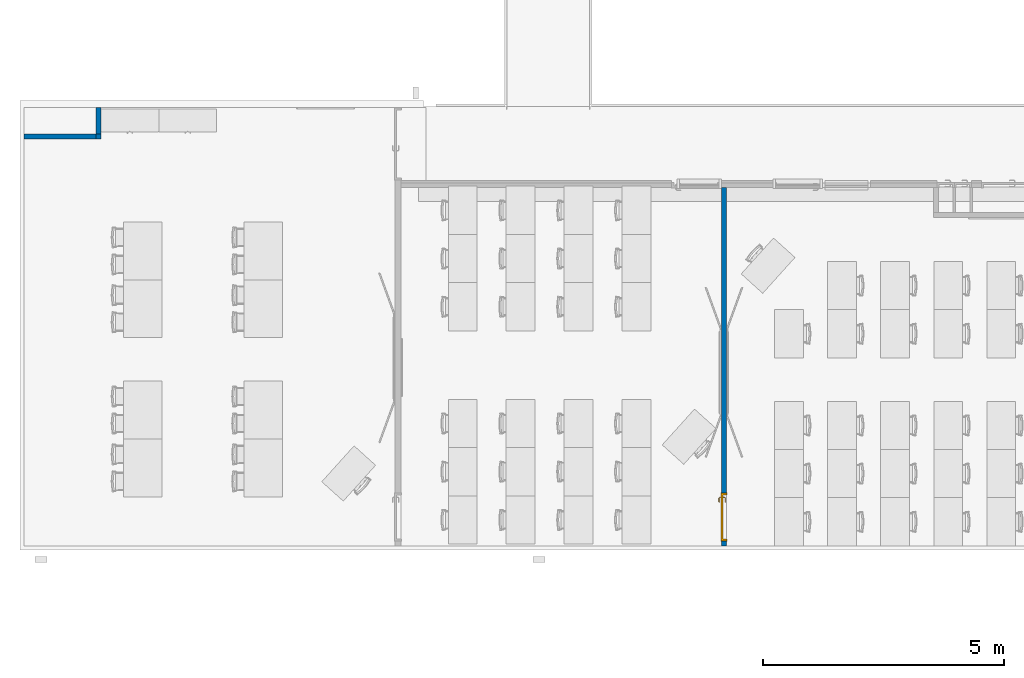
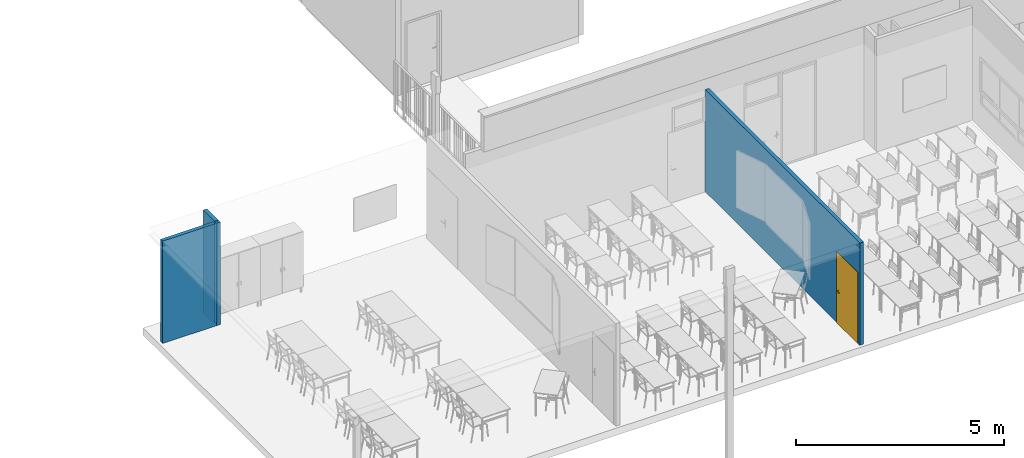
# One storey, part 18 of 44: 5 walls, 1 door, 1 opening.
"""IFC2X3 building model written with IfcOpenShell, lengths in centimetres."""

from ifc_helpers import new_model, entity, si_unit, converted_unit, derived_unit, direction, frame, frame_2d, origin, place, context, subcontext, project, spatial, rectangle, extrude, faceted_brep, source, transform, mapped, material, material_list, layer, layer_set, layer_usage, type_object, type_shapes, element, fill, save


model = new_model("IFC2X3")

# Units and contexts
model_context = context("Model", 3, precision=0.001, world=origin(), true_north=direction((6.12303176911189e-17, 1.0)))
body_context = subcontext(model_context, "Body", "Model", "MODEL_VIEW")
ifc_project = project(units=[si_unit("LENGTHUNIT", "METRE", prefix="CENTI"), si_unit("AREAUNIT", "SQUARE_METRE"), si_unit("VOLUMEUNIT", "CUBIC_METRE"), converted_unit("PLANEANGLEUNIT", "DEGREE", entity("IfcRatioMeasure", 0.0174532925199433), si_unit("PLANEANGLEUNIT", "RADIAN"), dimensions=[0, 0, 0, 0, 0, 0, 0]), si_unit("MASSUNIT", "GRAM", prefix="KILO"), si_unit("TIMEUNIT", "SECOND"), si_unit("FREQUENCYUNIT", "HERTZ"), si_unit("THERMODYNAMICTEMPERATUREUNIT", "DEGREE_CELSIUS"), derived_unit("THERMALTRANSMITTANCEUNIT", [(si_unit("MASSUNIT", "GRAM", prefix="KILO"), 1), (si_unit("THERMODYNAMICTEMPERATUREUNIT", "KELVIN"), -1), (si_unit("TIMEUNIT", "SECOND"), -3)]), derived_unit("VOLUMETRICFLOWRATEUNIT", [(si_unit("LENGTHUNIT", "METRE"), 3), (si_unit("TIMEUNIT", "SECOND"), -1)]), si_unit("ELECTRICCURRENTUNIT", "AMPERE"), si_unit("ELECTRICVOLTAGEUNIT", "VOLT"), si_unit("POWERUNIT", "WATT"), si_unit("FORCEUNIT", "NEWTON", prefix="KILO"), si_unit("ILLUMINANCEUNIT", "LUX"), si_unit("LUMINOUSFLUXUNIT", "LUMEN"), si_unit("LUMINOUSINTENSITYUNIT", "CANDELA"), derived_unit("USERDEFINED", [(si_unit("MASSUNIT", "GRAM", prefix="KILO"), -1), (si_unit("LENGTHUNIT", "METRE"), -2), (si_unit("TIMEUNIT", "SECOND"), 3), (si_unit("LUMINOUSFLUXUNIT", "LUMEN"), 1)]), derived_unit("LINEARVELOCITYUNIT", [(si_unit("LENGTHUNIT", "METRE"), 1), (si_unit("TIMEUNIT", "SECOND"), -1)]), si_unit("PRESSUREUNIT", "PASCAL"), derived_unit("USERDEFINED", [(si_unit("LENGTHUNIT", "METRE"), -2), (si_unit("MASSUNIT", "GRAM", prefix="KILO"), 1), (si_unit("TIMEUNIT", "SECOND"), -2)])], contexts=[model_context])

# Site, building, storey
site_placement = place(None, frame((8.62739174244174, -249.285249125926, 0.0)))
site = spatial("IfcSite", under=ifc_project, at=site_placement, Name="Default", CompositionType="ELEMENT")
building_placement = place(site_placement, origin())
building = spatial("IfcBuilding", under=site, at=building_placement, CompositionType="ELEMENT")
storey_placement = place(building_placement, frame((0.0, 0.0, 343.0)))
storey = spatial("IfcBuildingStorey", under=building, at=storey_placement, Name="R+1", CompositionType="ELEMENT", Elevation=343.0)

# Walls
ifc_material_1 = material(Name="Plâtre")
ifc_layer = layer(ifc_material_1, 10.0)
ifc_layer_set = layer_set([ifc_layer], Name="Mur de base:PLA 10")
ifc_layer_usage_1 = layer_usage(ifc_layer_set, "AXIS2", "NEGATIVE", 5.0)
wall_type = type_object("IfcWallType", Name="Mur de base:PLA 10", PredefinedType="STANDARD", material=ifc_layer_set)
wall_1_placement = place(storey_placement, frame((22.100000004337, 871.0, 0.0)))
element("IfcWallStandardCase", 1, at=wall_1_placement, inside=storey, type_object=wall_type, material=ifc_layer_usage_1, Name="Mur de base:PLA 10", ObjectType="Mur de base:PLA 10", context=body_context, shape_type="SweptSolid", body=[
    extrude(rectangle(XDim=159.9, YDim=9.99999999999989, at=frame_2d((79.95, 0.0), x_axis=(-1.0, 0.0))), origin(), (0.0, 0.0, 1.0), 300.0),
])
ifc_layer_usage_2 = layer_usage(ifc_layer_set, "AXIS2", "NEGATIVE", 5.0)
wall_2_placement = place(storey_placement, frame((177.0, 876.0, 0.0), z_axis=(0.0, 0.0, 1.0), x_axis=(0.0, 1.0, 0.0)))
element("IfcWallStandardCase", 2, at=wall_2_placement, inside=storey, type_object=wall_type, material=ifc_layer_usage_2, Name="Mur de base:PLA 10", ObjectType="Mur de base:PLA 10", context=body_context, shape_type="SweptSolid", body=[
    extrude(rectangle(XDim=54.9000000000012, YDim=10.0, at=frame_2d((27.4500000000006, 0.0), x_axis=(-1.0, 0.0))), origin(), (0.0, 0.0, 1.0), 300.0),
])
ifc_layer_usage_3 = layer_usage(ifc_layer_set, "AXIS2", "NEGATIVE", 5.0)
wall_3_placement = place(storey_placement, frame((22.100000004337, 871.0, 0.0)))
element("IfcWallStandardCase", 3, at=wall_3_placement, inside=storey, type_object=wall_type, material=ifc_layer_usage_3, Name="Mur de base:PLA 10", ObjectType="Mur de base:PLA 10", context=body_context, shape_type="SweptSolid", body=[
    extrude(rectangle(XDim=149.9, YDim=9.99999999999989, at=frame_2d((74.95, 0.0), x_axis=(-1.0, 0.0))), origin(), (0.0, 0.0, 1.0), 300.0),
])
ifc_layer_usage_4 = layer_usage(ifc_layer_set, "AXIS2", "NEGATIVE", 5.0)
wall_4_placement = place(storey_placement, frame((177.0, 876.0, 0.0), z_axis=(0.0, 0.0, 1.0), x_axis=(0.0, 1.0, 0.0)))
element("IfcWallStandardCase", 4, at=wall_4_placement, inside=storey, type_object=wall_type, material=ifc_layer_usage_4, Name="Mur de base:PLA 10", ObjectType="Mur de base:PLA 10", context=body_context, shape_type="SweptSolid", body=[
    extrude(rectangle(XDim=54.9000000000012, YDim=10.0, at=frame_2d((27.4500000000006, 0.0), x_axis=(-1.0, 0.0))), origin(), (0.0, 0.0, 1.0), 300.0),
])

# Wall, opening, door
ifc_layer_usage_5 = layer_usage(ifc_layer_set, "AXIS2", "NEGATIVE", 5.0)
wall_5_placement = place(storey_placement, frame((1473.90547197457, 765.0, 0.0), z_axis=(0.0, 0.0, 1.0), x_axis=(0.0, -1.0, 0.0)))
wall_5 = element("IfcWallStandardCase", 5, at=wall_5_placement, inside=storey, type_object=wall_type, material=ifc_layer_usage_5, Name="Mur de base:PLA 10", ObjectType="Mur de base:PLA 10", context=body_context, shape_type="SweptSolid", body=[
    extrude(rectangle(XDim=743.0, YDim=9.99999999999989, at=frame_2d((371.5, 5.15143483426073e-14), x_axis=(-1.0, 0.0))), origin(), (0.0, 0.0, 1.0), 300.0),
])
opening_placement = place(wall_5_placement, frame((733.0, 5.0, 0.0)))
opening = element("IfcOpeningElement", 6, at=opening_placement, cuts=wall_5, Name="Simple(R)_bois_mu:93 x 204 cm:1", ObjectType="Opening", context=body_context, shape_type="SweptSolid", body=[
    extrude(rectangle(XDim=207.499999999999, YDim=99.9999999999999, at=frame_2d((103.749999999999, 50.0), x_axis=(1.0, 0.0))), frame((0.0, 0.0, 0.0), z_axis=(0.0, -1.0, 0.0), x_axis=(0.0, 0.0, 1.0)), (0.0, 0.0, 1.0), 10.0),
])
ifc_material_2 = material(Name="Porte - Poignée")
ifc_material_3 = material(Name="Porte - Cadre")
ifc_material_4 = material(Name="Porte - Panneau")
ifc_material_list_1 = material_list([ifc_material_2, ifc_material_3, ifc_material_4])
ifc_material_list_2 = material_list([ifc_material_2, ifc_material_3, ifc_material_4])
door_style = type_object("IfcDoorStyle", Name="93 x 204 cm", ConstructionType="NOTDEFINED", OperationType="SINGLE_SWING_RIGHT", ParameterTakesPrecedence=False, Sizeable=False, material=ifc_material_list_2)
shared_shape = source(origin(), body_context, "Body", "Brep", [
    faceted_brep([(8.79747013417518, 3.69999999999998, 100.778044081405), (8.3999999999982, 3.69999999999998, 100.699999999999), (8.39999999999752, 3.69999999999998, 99.2999999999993), (8.79747013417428, 3.69999999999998, 99.2219559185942), (9.20252986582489, 3.69999999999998, 99.2219559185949), (9.60000000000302, 3.69999999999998, 99.3000000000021), (9.60000000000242, 3.69999999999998, 100.699999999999), (9.2025298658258, 3.69999999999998, 100.778044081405), (9.60000000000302, 5.94852045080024, 99.3000000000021), (9.60000000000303, 5.94852045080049, 100.699999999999), (9.20252986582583, 6.1131579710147, 100.778044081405), (10.5838906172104, 7.49451872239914, 100.778044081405), (10.4161093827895, 7.89957845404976, 100.778044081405), (8.79747013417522, 6.2809392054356, 100.778044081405), (19.5684749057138, 6.84673156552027, 100.778044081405), (19.8548953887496, 7.13315204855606, 100.778044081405), (19.0884689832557, 7.89957845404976, 100.778044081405), (18.9206877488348, 7.49451872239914, 100.778044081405), (8.39999999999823, 6.44557672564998, 100.699999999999), (8.3999999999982, 6.44557672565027, 99.2999999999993), (8.79747013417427, 6.28093920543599, 99.2219559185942), (10.4161093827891, 7.8995784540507, 99.2219559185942), (10.58389061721, 7.49451872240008, 99.2219559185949), (9.20252986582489, 6.11315797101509, 99.2219559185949), (19.8548953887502, 7.13315204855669, 99.2219559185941), (19.5684749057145, 6.84673156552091, 99.2219559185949), (18.9206877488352, 7.49451872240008, 99.2219559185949), (19.088468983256, 7.8995784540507, 99.2219559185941), (10.7485281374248, 7.09704858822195, 99.3000000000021), (10.748528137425, 7.09704858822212, 100.699999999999), (10.2514718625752, 8.29704858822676, 100.699999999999), (10.2514718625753, 8.29704858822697, 99.2999999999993), (14.7522904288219, 7.09704858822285, 99.3000000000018), (18.7560502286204, 7.09704858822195, 99.3000000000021), (18.7560502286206, 7.09704858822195, 100.699999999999), (14.7522891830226, 7.09704858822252, 100.699999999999), (14.7522891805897, 7.71249275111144, 100.787811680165), (19.25310650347, 8.29704858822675, 100.699999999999), (15.2600577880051, 8.29704858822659, 100.699999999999), (19.2531065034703, 8.29704858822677, 99.2999999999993), (14.2445206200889, 8.29704858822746, 99.2999999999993), (14.7522892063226, 7.71249274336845, 99.2121883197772), (19.2874210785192, 6.56567773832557, 99.3000000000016), (20.1359492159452, 7.41420587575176, 99.2999999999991), (20.135949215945, 7.4142058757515, 100.699999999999), (19.287421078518, 6.5656777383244, 100.699999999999)], [[[0, 1, 2, 3, 4, 5, 6, 7]], [[6, 5, 8, 9]], [[9, 10, 7, 6]], [[10, 11, 12, 13, 0, 7]], [[14, 15, 16, 17]], [[13, 18, 1, 0]], [[2, 1, 18, 19]], [[19, 20, 3, 2]], [[20, 21, 22, 23, 4, 3]], [[24, 25, 26, 27]], [[23, 8, 5, 4]], [[9, 8, 28, 29]], [[29, 11, 10, 9]], [[12, 30, 18, 13]], [[19, 18, 30, 31]], [[31, 21, 20, 19]], [[22, 28, 8, 23]], [[29, 28, 32, 33, 34, 35]], [[11, 35, 36]], [[16, 37, 38]], [[30, 12, 38]], [[38, 12, 36]], [[36, 35, 17]], [[17, 16, 36]], [[35, 11, 29]], [[34, 17, 35]], [[11, 36, 12]], [[38, 36, 16]], [[31, 30, 38, 37, 39, 40]], [[40, 41, 21]], [[41, 40, 27]], [[21, 31, 40]], [[39, 27, 40]], [[41, 32, 22]], [[22, 21, 41]], [[26, 32, 41]], [[28, 22, 32]], [[32, 26, 33]], [[26, 41, 27]], [[42, 25, 24, 43, 44, 15, 14, 45]], [[34, 33, 42, 45]], [[45, 14, 17, 34]], [[15, 44, 37, 16]], [[39, 37, 44, 43]], [[43, 24, 27, 39]], [[25, 42, 33, 26]]]),
    faceted_brep([(8.79747013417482, -1.30000000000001, 100.778044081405), (9.20252986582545, -1.30000000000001, 100.778044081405), (9.6000000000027, -1.30000000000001, 100.699999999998), (9.60000000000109, -1.30000000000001, 99.3000000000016), (9.20252986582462, -1.30000000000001, 99.2219559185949), (8.79747013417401, -1.30000000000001, 99.2219559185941), (8.39999999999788, -1.30000000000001, 99.2999999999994), (8.39999999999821, -1.30000000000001, 100.699999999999), (8.39999999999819, -4.06509507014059, 100.699999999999), (8.7974701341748, -3.90045754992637, 100.778044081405), (10.402358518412, -5.50534593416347, 100.778044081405), (10.5701397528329, -5.10028620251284, 100.778044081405), (9.20252986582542, -3.73267631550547, 100.778044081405), (19.852181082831, -4.73891952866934, 100.778044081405), (19.5657605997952, -4.4524990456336, 100.778044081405), (18.9179734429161, -5.10028620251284, 100.778044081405), (19.085754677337, -5.50534593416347, 100.778044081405), (9.60000000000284, -3.56803879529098, 100.699999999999), (9.6000000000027, -3.56803879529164, 99.3000000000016), (9.20252986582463, -3.7326763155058, 99.2219559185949), (10.5701397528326, -5.10028620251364, 99.2219559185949), (10.4023585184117, -5.50534593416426, 99.2219559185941), (8.79747013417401, -3.9004575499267, 99.2219559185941), (19.5657605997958, -4.45249904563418, 99.2219559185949), (19.8521810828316, -4.73891952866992, 99.2219559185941), (19.0857546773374, -5.50534593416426, 99.2219559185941), (18.9179734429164, -5.10028620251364, 99.2219559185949), (8.39999999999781, -4.06509507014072, 99.2999999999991), (10.2377209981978, -5.90281606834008, 100.699999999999), (10.7347772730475, -4.70281606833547, 100.699999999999), (10.7347772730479, -4.70281606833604, 99.3000000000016), (10.2377209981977, -5.90281606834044, 99.2999999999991), (14.2307697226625, -5.90281606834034, 100.699999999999), (14.7440566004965, -5.31828027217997, 100.787811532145), (19.2503921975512, -5.90281606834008, 100.699999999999), (14.7440565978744, -4.70281606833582, 100.699999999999), (18.7533359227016, -4.70281606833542, 100.699999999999), (18.7533359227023, -4.70281606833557, 99.3000000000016), (14.7440563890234, -4.70281606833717, 99.3000000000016), (14.744056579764, -5.31828027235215, 99.2121884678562), (19.2503921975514, -5.90281606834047, 99.2999999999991), (15.2573433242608, -5.90281606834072, 99.2999999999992), (19.2847067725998, -4.1714452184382, 100.699999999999), (20.1332349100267, -5.01997335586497, 100.699999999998), (20.1332349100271, -5.01997335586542, 99.2999999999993), (19.2847067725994, -4.17144521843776, 99.3000000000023)], [[[0, 1, 2, 3, 4, 5, 6, 7]], [[8, 9, 0, 7]], [[9, 10, 11, 12, 1, 0]], [[13, 14, 15, 16]], [[12, 17, 2, 1]], [[3, 2, 17, 18]], [[18, 19, 4, 3]], [[19, 20, 21, 22, 5, 4]], [[23, 24, 25, 26]], [[22, 27, 6, 5]], [[7, 6, 27, 8]], [[28, 10, 9, 8]], [[11, 29, 17, 12]], [[18, 17, 29, 30]], [[30, 20, 19, 18]], [[21, 31, 27, 22]], [[8, 27, 31, 28]], [[32, 33, 10]], [[33, 32, 16]], [[10, 28, 32]], [[34, 16, 32]], [[33, 35, 11]], [[11, 10, 33]], [[15, 35, 33]], [[29, 11, 35]], [[35, 15, 36]], [[15, 33, 16]], [[30, 29, 35, 36, 37, 38]], [[20, 38, 39]], [[25, 40, 41]], [[31, 21, 41]], [[41, 21, 39]], [[39, 38, 26]], [[26, 25, 39]], [[38, 20, 30]], [[37, 26, 38]], [[20, 39, 21]], [[41, 39, 25]], [[28, 31, 41, 40, 34, 32]], [[42, 14, 13, 43, 44, 24, 23, 45]], [[43, 13, 16, 34]], [[14, 42, 36, 15]], [[37, 36, 42, 45]], [[45, 23, 26, 37]], [[24, 44, 40, 25]], [[34, 40, 44, 43]]]),
    faceted_brep([(10.03527618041, 3.19999999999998, 86.6003983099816), (11.0, 3.19999999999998, 87.0), (11.0, 3.19999999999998, 108.0), (10.03527618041, 3.19999999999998, 108.399601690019), (9.0, 3.19999999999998, 108.535898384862), (7.96472381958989, 3.19999999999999, 108.399601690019), (7.0, 3.19999999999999, 108.0), (7.0, 3.19999999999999, 87.0), (7.96472381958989, 3.19999999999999, 86.6003983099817), (9.0, 3.19999999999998, 86.4641016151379), (10.03527618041, 3.69999999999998, 108.399601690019), (11.0, 3.69999999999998, 108.0), (11.0, 3.69999999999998, 87.0), (10.03527618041, 3.69999999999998, 86.6003983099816), (9.0, 3.69999999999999, 86.4641016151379), (7.96472381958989, 3.69999999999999, 86.6003983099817), (7.0, 3.69999999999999, 87.0), (7.0, 3.69999999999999, 108.0), (7.96472381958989, 3.69999999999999, 108.399601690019), (9.0, 3.69999999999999, 108.535898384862)], [[[0, 1, 2, 3, 4, 5, 6, 7, 8, 9]], [[10, 11, 12, 13, 14, 15, 16, 17, 18, 19]], [[11, 10, 3, 2]], [[3, 10, 19, 4]], [[19, 18, 5, 4]], [[18, 17, 6, 5]], [[7, 6, 17, 16]], [[16, 15, 8, 7]], [[8, 15, 14, 9]], [[14, 13, 0, 9]], [[13, 12, 1, 0]], [[2, 1, 12, 11]]]),
    faceted_brep([(10.03527618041, -1.30000000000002, 86.6003983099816), (11.0, -1.30000000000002, 87.0), (11.0, -1.30000000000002, 108.0), (10.03527618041, -1.30000000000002, 108.399601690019), (9.0, -1.30000000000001, 108.535898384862), (7.9647238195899, -1.30000000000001, 108.399601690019), (7.0, -1.30000000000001, 108.0), (7.0, -1.30000000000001, 87.0), (7.96472381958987, -1.30000000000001, 86.6003983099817), (9.0, -1.30000000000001, 86.4641016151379), (10.03527618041, -0.800000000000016, 108.399601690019), (11.0, -0.800000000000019, 108.0), (11.0, -0.800000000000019, 87.0), (10.03527618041, -0.800000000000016, 86.6003983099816), (9.0, -0.800000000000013, 86.4641016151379), (7.96472381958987, -0.800000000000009, 86.6003983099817), (7.0, -0.800000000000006, 87.0), (7.0, -0.800000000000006, 108.0), (7.9647238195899, -0.800000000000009, 108.399601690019), (9.0, -0.800000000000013, 108.535898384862)], [[[0, 1, 2, 3, 4, 5, 6, 7, 8, 9]], [[10, 11, 12, 13, 14, 15, 16, 17, 18, 19]], [[16, 15, 8, 7]], [[8, 15, 14, 9]], [[14, 13, 0, 9]], [[13, 12, 1, 0]], [[2, 1, 12, 11]], [[11, 10, 3, 2]], [[3, 10, 19, 4]], [[19, 18, 5, 4]], [[18, 17, 6, 5]], [[7, 6, 17, 16]]]),
    faceted_brep([(0.0, 0.0, 0.0), (0.0, 10.0, 0.0), (-1.0, 10.0, 0.0), (-1.0, 10.8000000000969, 0.0), (4.49999999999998, 10.8000000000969, 0.0), (4.49999999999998, 3.2, 0.0), (3.49999999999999, 3.2, 0.0), (3.49999999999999, -0.799999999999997, 0.0), (-1.0, -0.799999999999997, 0.0), (-1.0, 0.0, 0.0), (0.0, 0.0, 207.499999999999), (0.0, 10.0, 207.499999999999), (100.0, 10.0, 207.499999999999), (100.0, 10.0, 0.0), (101.0, 10.0, 0.0), (101.0, 10.0, 208.499999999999), (-1.0, 10.0, 208.499999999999), (-1.0, 10.8000000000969, 208.499999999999), (101.0, 10.8000000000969, 208.499999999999), (101.0, 10.8000000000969, 0.0), (95.5, 10.8000000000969, 0.0), (95.5, 10.8000000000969, 203.0), (4.49999999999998, 10.8000000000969, 203.0), (4.49999999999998, 3.2, 203.0), (95.5, 3.2, 203.0), (95.5, 3.2, 0.0), (96.5, 3.2, 0.0), (96.5, 3.2, 204.0), (3.49999999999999, 3.2, 204.0), (3.49999999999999, -0.799999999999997, 204.0), (96.5, -0.799999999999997, 204.0), (96.5, -0.799999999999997, 0.0), (101.0, -0.799999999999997, 0.0), (101.0, -0.799999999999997, 208.499999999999), (-1.0, -0.799999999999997, 208.499999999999), (-1.0, 0.0, 208.499999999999), (101.0, 0.0, 208.499999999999), (101.0, 0.0, 0.0), (100.0, 0.0, 0.0), (100.0, 0.0, 207.499999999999)], [[[0, 1, 2, 3, 4, 5, 6, 7, 8, 9]], [[1, 0, 10, 11]], [[2, 1, 11, 12, 13, 14, 15, 16]], [[3, 2, 16, 17]], [[4, 3, 17, 18, 19, 20, 21, 22]], [[5, 4, 22, 23]], [[6, 5, 23, 24, 25, 26, 27, 28]], [[7, 6, 28, 29]], [[8, 7, 29, 30, 31, 32, 33, 34]], [[9, 8, 34, 35]], [[0, 9, 35, 36, 37, 38, 39, 10]], [[12, 39, 38, 13]], [[38, 37, 32, 31, 26, 25, 20, 19, 14, 13]], [[18, 15, 14, 19]], [[24, 21, 20, 25]], [[30, 27, 26, 31]], [[36, 33, 32, 37]], [[11, 10, 39, 12]], [[17, 16, 15, 18]], [[23, 22, 21, 24]], [[29, 28, 27, 30]], [[35, 34, 33, 36]]]),
    faceted_brep([(3.49999999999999, -0.799999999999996, 204.0), (3.49999999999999, -0.799999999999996, 0.0), (96.5, -0.799999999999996, 0.0), (96.5, -0.799999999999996, 204.0), (3.49999999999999, 3.2, 204.0), (96.5, 3.2, 204.0), (96.5, 3.2, 0.0), (3.49999999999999, 3.2, 0.0)], [[[0, 1, 2, 3]], [[4, 5, 6, 7]], [[1, 0, 4, 7]], [[2, 1, 7, 6]], [[3, 2, 6, 5]], [[0, 3, 5, 4]]]),
])
type_shapes(door_style, [shared_shape])
door_placement = place(opening_placement, frame((-100.0, -10.0, 0.0)))
door = element("IfcDoor", 7, at=door_placement, inside=storey, type_object=door_style, material=ifc_material_list_1, Name="Simple(R)_bois_mu:93 x 204 cm", ObjectType="93 x 204 cm", OverallHeight=207.499999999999, OverallWidth=99.9999999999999, context=body_context, shape_type="MappedRepresentation", body=[
    mapped(shared_shape, transform((0.0, 0.0, 0.0), scale=1.0)),
])
fill(opening, door)

save(model, "model.ifc")
